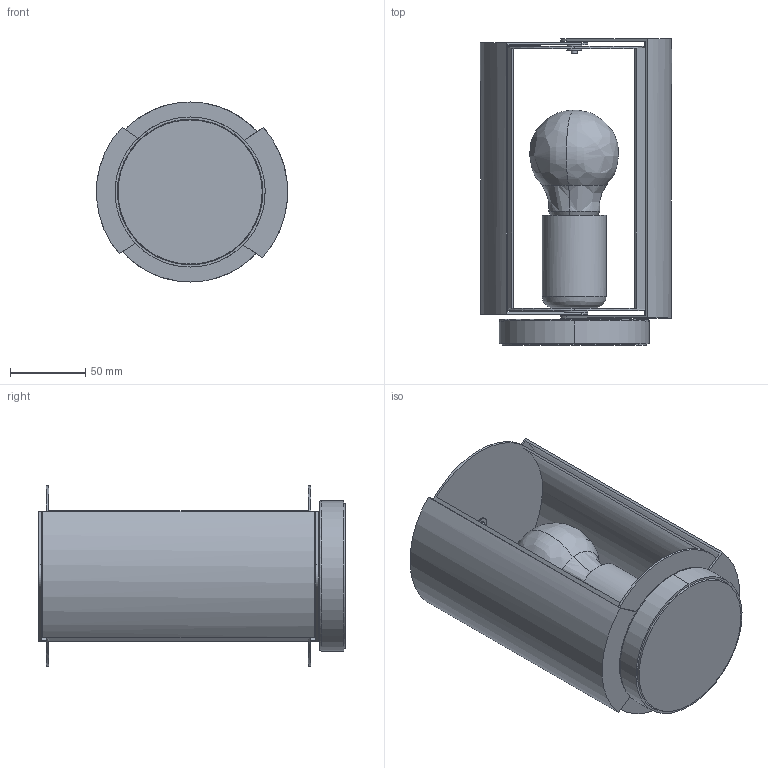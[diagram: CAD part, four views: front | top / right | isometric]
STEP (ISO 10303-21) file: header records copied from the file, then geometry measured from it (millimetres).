
FILE_DESCRIPTION(/* description */ (''),/* implementation_level */ '2;1');
FILE_NAME(/* name */ '3D_PIV~1',/* time_stamp */ '2018-03-01T15:04:41+01:00',/* author */ (''),/* organization */ (''),/* preprocessor_version */ 'ST-DEVELOPER v15',/* originating_system */ '',/* authorisation */ '');
FILE_SCHEMA (('AUTOMOTIVE_DESIGN'));
Length unit declared in the file: millimetre
Products named in the file (11): Document; CORPO CENTRMARTI; PERNO testa svazataMARTI; rondelle_STEAB_5400.13.1MARTI; BASEMARTI; rondelle_STEAB_5301.1MARTI; ZAVORRAMARTI; ROTANTE INTMARTI; _U3; ROTANTE ESTMARTI; BICCHIERI 35-3951 FEMARTI
Assembly tree (14 placements, depth 2):
  Document
    CORPO CENTRMARTI
    PERNO testa svazataMARTI
    rondelle_STEAB_5400.13.1MARTI  x3
    BASEMARTI
    rondelle_STEAB_5301.1MARTI  x3
    ZAVORRAMARTI
    ROTANTE INTMARTI
    _U3
    ROTANTE ESTMARTI
    BICCHIERI 35-3951 FEMARTI
Bounding box: 127.32 x 204 x 120 mm (x, y, z)
Volume: 291030.7 mm3; surface area: 279160.8 mm2
Topology: 13 solids, 14 shells, 155 faces, 353 edges, 226 vertices
Faces by surface type: bspline 99, plane 56
Entity records: 8352 total; most frequent: CARTESIAN_POINT 6062, ORIENTED_EDGE 604, EDGE_CURVE 303, VERTEX_POINT 194, B_SPLINE_CURVE_WITH_KNOTS 162, EDGE_LOOP 152, ADVANCED_FACE 131, FACE_OUTER_BOUND 131
